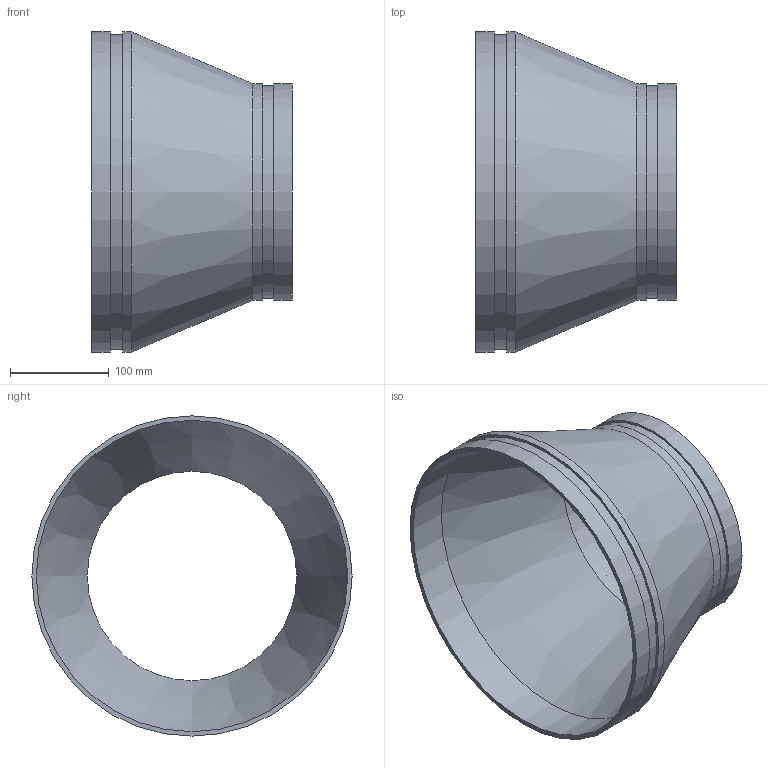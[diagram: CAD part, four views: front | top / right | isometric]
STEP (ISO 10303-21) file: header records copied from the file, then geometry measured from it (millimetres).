
FILE_DESCRIPTION(/* description */ ('VIC REDUCER CONCENTRIC No 450-SS','CAx-IF Rec.Pracs.---Representation and Presentation of Product Manufacturing Information (PMI)---4.0---2014-10-13'),/* implementation_level */ '2;1');
FILE_NAME(/* name */ 'C:\Users\kkamble\AppData\Roaming\Autodesk\ApplicationPlugins\Back Up\Victaulic_SS-OGS_Reducer Concentric_Sched 10S_No 450 SS (OGS)\Victaulic_SS-OGS_Reducer Concentric_Sched 10S_No 450 SS (OGS)_12.0x08.0 (300x200).stp',/* time_stamp */ '2020-09-08T12:34:03+05:00',/* author */ ('CORINNE GRAY'),/* organization */ ('Victaulic'),/* preprocessor_version */ 'ST-DEVELOPER v17.2',/* originating_system */ 'Autodesk Inventor 2019',/* authorisation */ '');
FILE_SCHEMA (('AP242_MANAGED_MODEL_BASED_3D_ENGINEERING_MIM_LF { 1 0 10303 442 1 1 4 }'));
Length unit declared in the file: inch
Products named in the file (1): 450 SS-12.0x08.0
Bounding box: 203.2 x 323.85 x 323.85 mm (x, y, z)
Volume: 664570.3 mm3; surface area: 374505.3 mm2
Topology: 1 solids, 1 shells, 16 faces, 42 edges, 32 vertices
Faces by surface type: cylinder 8, plane 6, cone 2
Full cylindrical faces by diameter (mm): 211.582 x1, 214.401 x1, 219.075 x2, 314.706 x1, 318.287 x1, 323.85 x2
Entity records: 686 total; most frequent: DIRECTION 134, CARTESIAN_POINT 108, ORIENTED_EDGE 84, AXIS2_PLACEMENT_3D 62, EDGE_CURVE 42, CIRCLE 32, VERTEX_POINT 32, EDGE_LOOP 22
